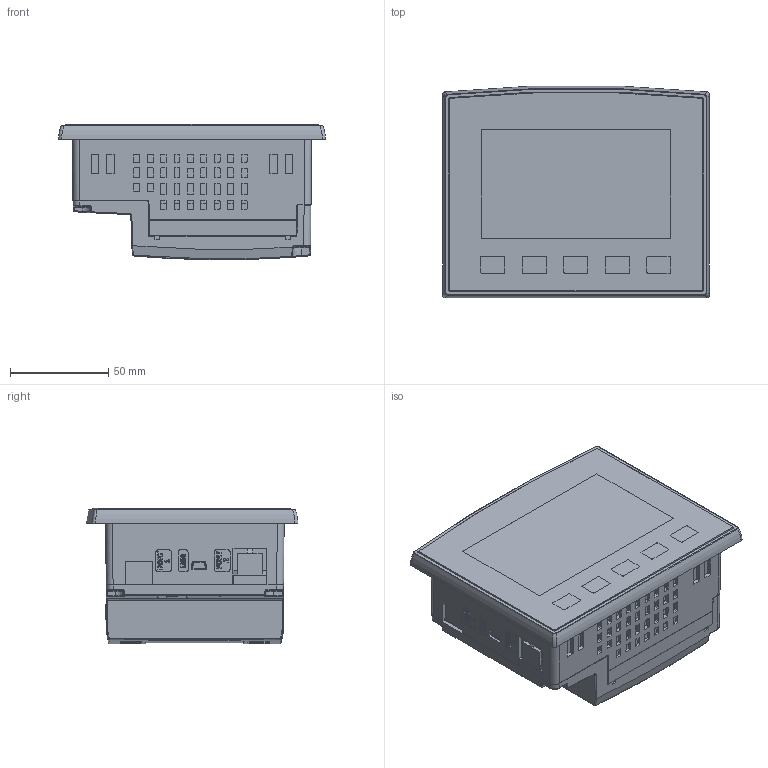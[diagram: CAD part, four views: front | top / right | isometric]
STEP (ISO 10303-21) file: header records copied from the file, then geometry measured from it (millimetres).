
FILE_DESCRIPTION (( 'STEP AP214' ), '1' );
FILE_NAME ('V430.STEP', '2024-04-18T12:42:21', ( '' ), ( '' ), 'SwSTEP 2.0', 'SolidWorks 2022', '' );
FILE_SCHEMA (( 'AUTOMOTIVE_DESIGN' ));
Length unit declared in the file: millimetre
Products named in the file (1): V430
Bounding box: 136 x 108.02 x 68.99 mm (x, y, z)
Volume: 696162.5 mm3; surface area: 72634 mm2
Topology: 1 solids, 11 shells, 2149 faces, 5739 edges, 3765 vertices
Faces by surface type: plane 1216, cylinder 467, bspline 300, cone 145, sphere 12, torus 9
Entity records: 79403 total; most frequent: CARTESIAN_POINT 30248, ORIENTED_EDGE 11462, DIRECTION 8277, EDGE_CURVE 5731, VERTEX_POINT 3765, VECTOR 3545, LINE 3545, AXIS2_PLACEMENT_3D 2366
